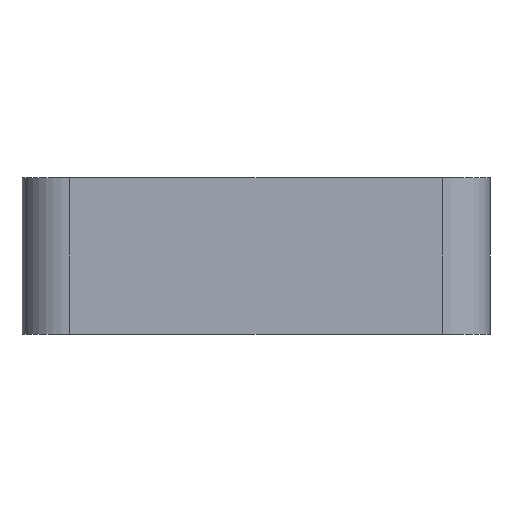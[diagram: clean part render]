
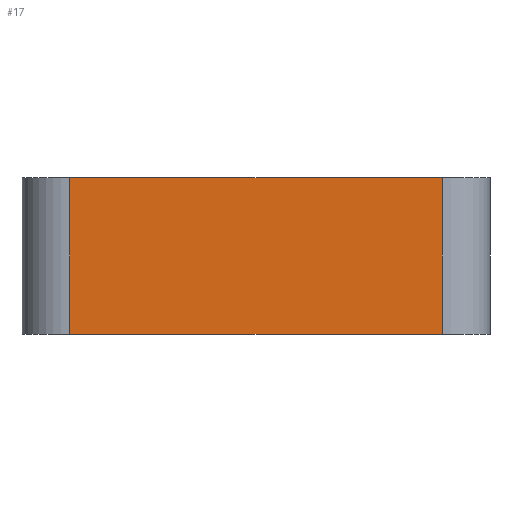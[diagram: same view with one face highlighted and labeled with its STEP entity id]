
A CAD part, left-side view. The second image highlights one B-rep face of the part: STEP entity #17.
In plain terms, the highlighted planar face has unit normal (-1, 0, 0).
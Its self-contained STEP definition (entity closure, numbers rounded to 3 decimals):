
#17 = ADVANCED_FACE('',(#18),#32,.T.);
#18 = FACE_BOUND('',#19,.T.);
#19 = EDGE_LOOP('',(#20,#55,#83,#111));
#20 = ORIENTED_EDGE('',*,*,#21,.T.);
#21 = EDGE_CURVE('',#22,#24,#26,.T.);
#22 = VERTEX_POINT('',#23);
#23 = CARTESIAN_POINT('',(-1.65,-14.975,-3.07));
#24 = VERTEX_POINT('',#25);
#25 = CARTESIAN_POINT('',(-1.65,-14.975,-2.251));
#26 = SURFACE_CURVE('',#27,(#31,#43),.PCURVE_S1.);
#27 = LINE('',#28,#29);
#28 = CARTESIAN_POINT('',(-1.65,-14.975,-3.07));
#29 = VECTOR('',#30,1.);
#30 = DIRECTION('',(0.,0.,1.));
#31 = PCURVE('',#32,#37);
#32 = PLANE('',#33);
#33 = AXIS2_PLACEMENT_3D('',#34,#35,#36);
#34 = CARTESIAN_POINT('',(-1.65,-14.975,-3.07));
#35 = DIRECTION('',(-1.,0.,0.));
#36 = DIRECTION('',(0.,1.,0.));
#37 = DEFINITIONAL_REPRESENTATION('',(#38),#42);
#38 = LINE('',#39,#40);
#39 = CARTESIAN_POINT('',(0.,0.));
#40 = VECTOR('',#41,1.);
#41 = DIRECTION('',(0.,-1.));
#42 = ( GEOMETRIC_REPRESENTATION_CONTEXT(2) 
PARAMETRIC_REPRESENTATION_CONTEXT() REPRESENTATION_CONTEXT('2D SPACE',''
  ) );
#43 = PCURVE('',#44,#49);
#44 = CYLINDRICAL_SURFACE('',#45,0.25);
#45 = AXIS2_PLACEMENT_3D('',#46,#47,#48);
#46 = CARTESIAN_POINT('',(-1.4,-14.975,-3.07));
#47 = DIRECTION('',(0.,0.,-1.));
#48 = DIRECTION('',(-1.,0.,0.));
#49 = DEFINITIONAL_REPRESENTATION('',(#50),#54);
#50 = LINE('',#51,#52);
#51 = CARTESIAN_POINT('',(6.283,0.));
#52 = VECTOR('',#53,1.);
#53 = DIRECTION('',(0.,-1.));
#54 = ( GEOMETRIC_REPRESENTATION_CONTEXT(2) 
PARAMETRIC_REPRESENTATION_CONTEXT() REPRESENTATION_CONTEXT('2D SPACE',''
  ) );
#55 = ORIENTED_EDGE('',*,*,#56,.T.);
#56 = EDGE_CURVE('',#24,#57,#59,.T.);
#57 = VERTEX_POINT('',#58);
#58 = CARTESIAN_POINT('',(-1.65,-13.025,-2.251));
#59 = SURFACE_CURVE('',#60,(#64,#71),.PCURVE_S1.);
#60 = LINE('',#61,#62);
#61 = CARTESIAN_POINT('',(-1.65,-14.,-2.251));
#62 = VECTOR('',#63,1.);
#63 = DIRECTION('',(0.,1.,0.));
#64 = PCURVE('',#32,#65);
#65 = DEFINITIONAL_REPRESENTATION('',(#66),#70);
#66 = LINE('',#67,#68);
#67 = CARTESIAN_POINT('',(0.975,-0.819));
#68 = VECTOR('',#69,1.);
#69 = DIRECTION('',(1.,0.));
#70 = ( GEOMETRIC_REPRESENTATION_CONTEXT(2) 
PARAMETRIC_REPRESENTATION_CONTEXT() REPRESENTATION_CONTEXT('2D SPACE',''
  ) );
#71 = PCURVE('',#72,#77);
#72 = PLANE('',#73);
#73 = AXIS2_PLACEMENT_3D('',#74,#75,#76);
#74 = CARTESIAN_POINT('',(0.,-14.,-2.251));
#75 = DIRECTION('',(0.,0.,1.));
#76 = DIRECTION('',(1.,0.,0.));
#77 = DEFINITIONAL_REPRESENTATION('',(#78),#82);
#78 = LINE('',#79,#80);
#79 = CARTESIAN_POINT('',(-1.65,0.));
#80 = VECTOR('',#81,1.);
#81 = DIRECTION('',(0.,1.));
#82 = ( GEOMETRIC_REPRESENTATION_CONTEXT(2) 
PARAMETRIC_REPRESENTATION_CONTEXT() REPRESENTATION_CONTEXT('2D SPACE',''
  ) );
#83 = ORIENTED_EDGE('',*,*,#84,.F.);
#84 = EDGE_CURVE('',#85,#57,#87,.T.);
#85 = VERTEX_POINT('',#86);
#86 = CARTESIAN_POINT('',(-1.65,-13.025,-3.07));
#87 = SURFACE_CURVE('',#88,(#92,#99),.PCURVE_S1.);
#88 = LINE('',#89,#90);
#89 = CARTESIAN_POINT('',(-1.65,-13.025,-3.07));
#90 = VECTOR('',#91,1.);
#91 = DIRECTION('',(0.,0.,1.));
#92 = PCURVE('',#32,#93);
#93 = DEFINITIONAL_REPRESENTATION('',(#94),#98);
#94 = LINE('',#95,#96);
#95 = CARTESIAN_POINT('',(1.95,0.));
#96 = VECTOR('',#97,1.);
#97 = DIRECTION('',(0.,-1.));
#98 = ( GEOMETRIC_REPRESENTATION_CONTEXT(2) 
PARAMETRIC_REPRESENTATION_CONTEXT() REPRESENTATION_CONTEXT('2D SPACE',''
  ) );
#99 = PCURVE('',#100,#105);
#100 = CYLINDRICAL_SURFACE('',#101,0.25);
#101 = AXIS2_PLACEMENT_3D('',#102,#103,#104);
#102 = CARTESIAN_POINT('',(-1.4,-13.025,-3.07));
#103 = DIRECTION('',(0.,0.,-1.));
#104 = DIRECTION('',(-1.,0.,0.));
#105 = DEFINITIONAL_REPRESENTATION('',(#106),#110);
#106 = LINE('',#107,#108);
#107 = CARTESIAN_POINT('',(0.,0.));
#108 = VECTOR('',#109,1.);
#109 = DIRECTION('',(0.,-1.));
#110 = ( GEOMETRIC_REPRESENTATION_CONTEXT(2) 
PARAMETRIC_REPRESENTATION_CONTEXT() REPRESENTATION_CONTEXT('2D SPACE',''
  ) );
#111 = ORIENTED_EDGE('',*,*,#112,.F.);
#112 = EDGE_CURVE('',#22,#85,#113,.T.);
#113 = SURFACE_CURVE('',#114,(#118,#125),.PCURVE_S1.);
#114 = LINE('',#115,#116);
#115 = CARTESIAN_POINT('',(-1.65,-14.,-3.07));
#116 = VECTOR('',#117,1.);
#117 = DIRECTION('',(0.,1.,0.));
#118 = PCURVE('',#32,#119);
#119 = DEFINITIONAL_REPRESENTATION('',(#120),#124);
#120 = LINE('',#121,#122);
#121 = CARTESIAN_POINT('',(0.975,0.));
#122 = VECTOR('',#123,1.);
#123 = DIRECTION('',(1.,0.));
#124 = ( GEOMETRIC_REPRESENTATION_CONTEXT(2) 
PARAMETRIC_REPRESENTATION_CONTEXT() REPRESENTATION_CONTEXT('2D SPACE',''
  ) );
#125 = PCURVE('',#126,#131);
#126 = PLANE('',#127);
#127 = AXIS2_PLACEMENT_3D('',#128,#129,#130);
#128 = CARTESIAN_POINT('',(0.,-14.,-3.07));
#129 = DIRECTION('',(0.,0.,1.));
#130 = DIRECTION('',(1.,0.,0.));
#131 = DEFINITIONAL_REPRESENTATION('',(#132),#136);
#132 = LINE('',#133,#134);
#133 = CARTESIAN_POINT('',(-1.65,0.));
#134 = VECTOR('',#135,1.);
#135 = DIRECTION('',(0.,1.));
#136 = ( GEOMETRIC_REPRESENTATION_CONTEXT(2) 
PARAMETRIC_REPRESENTATION_CONTEXT() REPRESENTATION_CONTEXT('2D SPACE',''
  ) );
